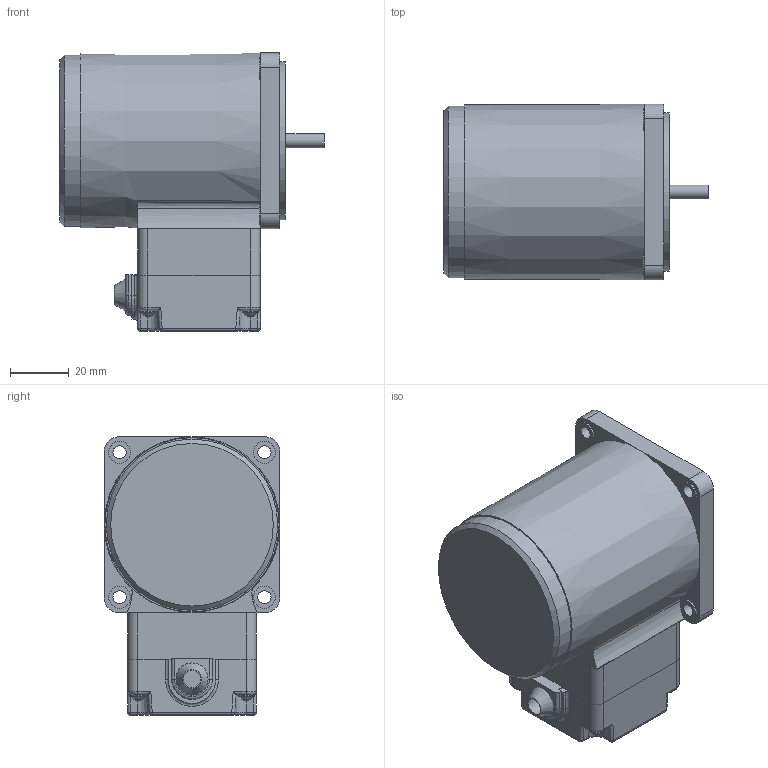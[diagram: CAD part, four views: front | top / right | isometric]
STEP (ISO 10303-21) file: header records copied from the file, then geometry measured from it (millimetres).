
FILE_DESCRIPTION(/* description */ (''),/* implementation_level */ '2;1');
FILE_NAME(/* name */ 'E:\도면작업\2016\0704) 미주향 SG 도면\3D MOTOR\TERMINAL BOX TYPE\INDUCTION TERMINAL BOX\SG6I06G_-T.stp',/* time_stamp */ '2017-01-23T16:17:07+09:00',/* author */ ('jy-jung'),/* organization */ (''),/* preprocessor_version */ 'ST-DEVELOPER v15.6',/* originating_system */ 'Autodesk Inventor 2015',/* authorisation */ '');
FILE_SCHEMA (('AUTOMOTIVE_DESIGN { 1 0 10303 214 3 1 1 }'));
Length unit declared in the file: millimetre
Products named in the file (1): 부품7
Bounding box: 90.2 x 60 x 95 mm (x, y, z)
Volume: 246937.1 mm3; surface area: 43490.1 mm2
Topology: 1 solids, 6 shells, 546 faces, 1414 edges, 879 vertices
Faces by surface type: plane 270, cylinder 194, torus 34, cone 17, sphere 16, bspline 15
Full cylindrical faces by diameter (mm): 2.5 x2, 3 x4, 3.5 x8, 4.5 x4, 4.76 x1, 5.6 x4, 6 x1, 7.5 x4, 8 x1, 25 x1, 54 x1, 58.5 x1
Entity records: 17388 total; most frequent: CARTESIAN_POINT 3586, DIRECTION 2807, ORIENTED_EDGE 2674, EDGE_CURVE 1337, AXIS2_PLACEMENT_3D 1014, VERTEX_POINT 871, LINE 779, VECTOR 779
